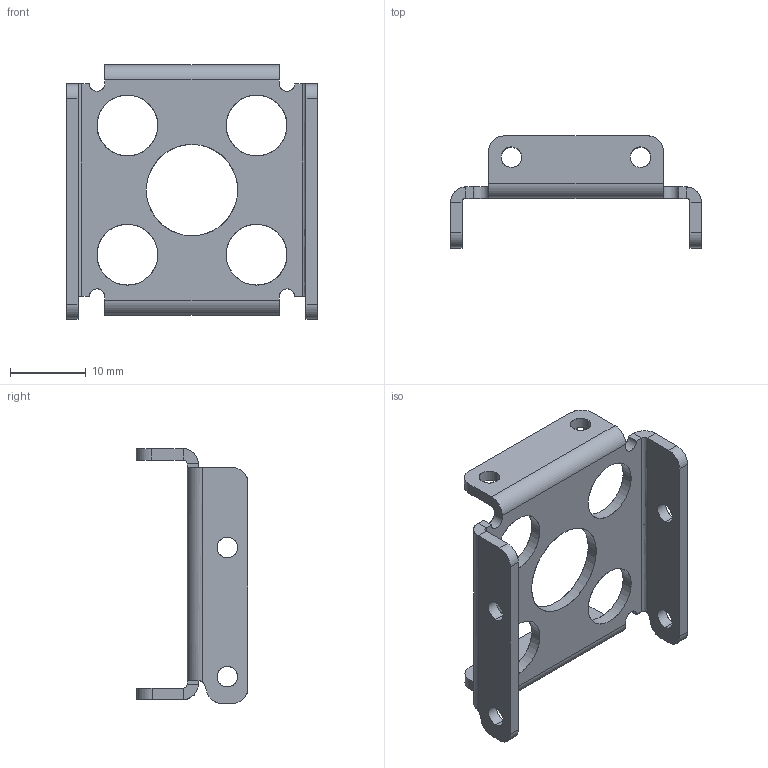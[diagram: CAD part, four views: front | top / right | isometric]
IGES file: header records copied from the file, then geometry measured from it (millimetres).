
Global section: file name: C:\Users\Knabe\Documents\Classes\8 Semester 8\DARwIn\Deliverables\DARwIn OP\DARwIn OP Part Files\OP 3D CAD Files\3D IGS\11_FR07_SC101.igs; native system: NX V7.0; preprocessor: SIEMENS PLM Software NX 7.0; date: 20110525.180830; units: millimetre
Bounding box: 33 x 14.7 x 33.5 mm (x, y, z)
Surface area: 3213.3 mm2 (no closed solid volume)
Topology: 0 solids, 0 shells, 90 faces, 681 edges, 681 vertices
Faces by surface type: bspline 90
